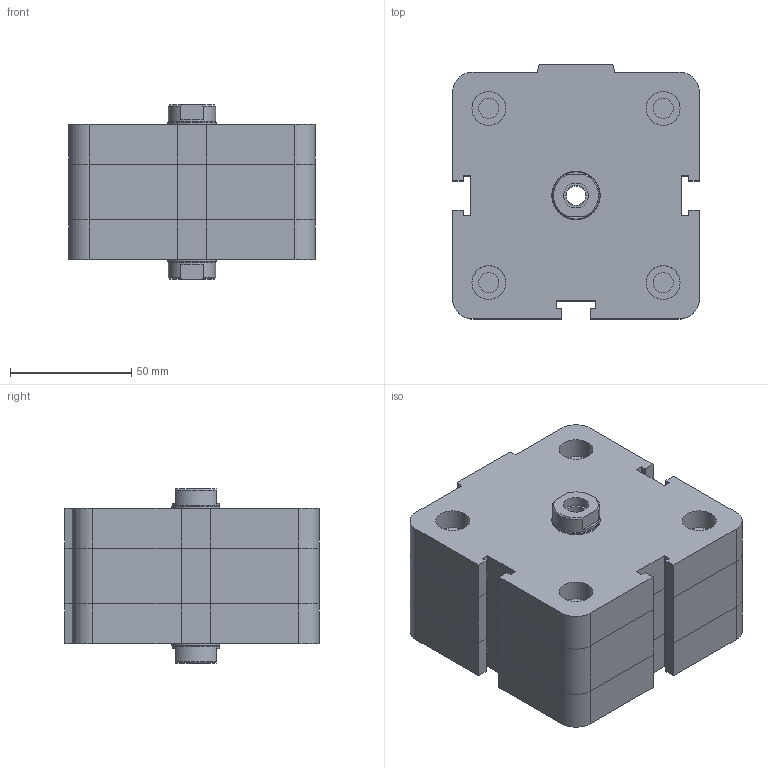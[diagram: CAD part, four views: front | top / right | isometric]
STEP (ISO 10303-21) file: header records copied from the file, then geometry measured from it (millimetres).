
FILE_DESCRIPTION((''),'2;1');
FILE_NAME('I:\Area Tecnica\Disegni\VARIE-3D\Componenti\EUROPE\15##_###_####_06_#\1561_80_0000_06_1.iam.stp','2009-04-20T15:06:36',(''),(''),'Autodesk Inventor 2009','Autodesk Inventor 2009','');
FILE_SCHEMA(('AUTOMOTIVE_DESIGN { 1 0 10303 214 1 1 1 1 }'));
Length unit declared in the file: millimetre
Products named in the file (3): 1561_80_0000_06_1; 1561_80_0000_03_1_C; 1561_80_0000_06_1_S
Assembly tree (2 placements, depth 2):
  1561_80_0000_06_1
    1561_80_0000_03_1_C
    1561_80_0000_06_1_S
Bounding box: 102 x 105 x 72 mm (x, y, z)
Volume: 549756.4 mm3; surface area: 62808.5 mm2
Topology: 2 solids, 2 shells, 175 faces, 382 edges, 233 vertices
Faces by surface type: plane 114, bspline 30, cylinder 25, cone 6
Full cylindrical faces by diameter (mm): 8.376 x5, 10.3 x1, 14 x4, 19.5 x2, 20 x1
Entity records: 4805 total; most frequent: CARTESIAN_POINT 1042, DIRECTION 712, ORIENTED_EDGE 680, EDGE_CURVE 340, VECTOR 252, LINE 252, AXIS2_PLACEMENT_3D 230, EDGE_LOOP 230
